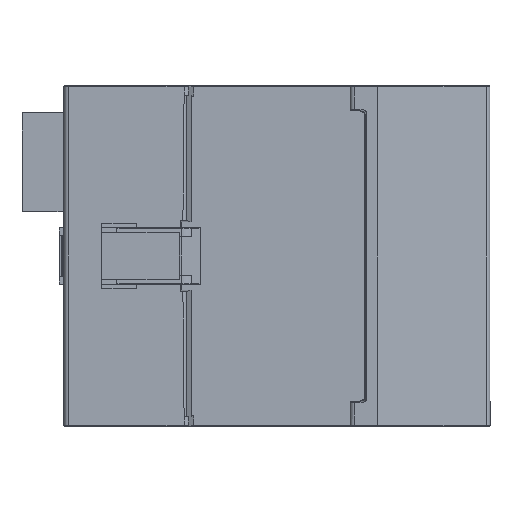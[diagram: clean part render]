
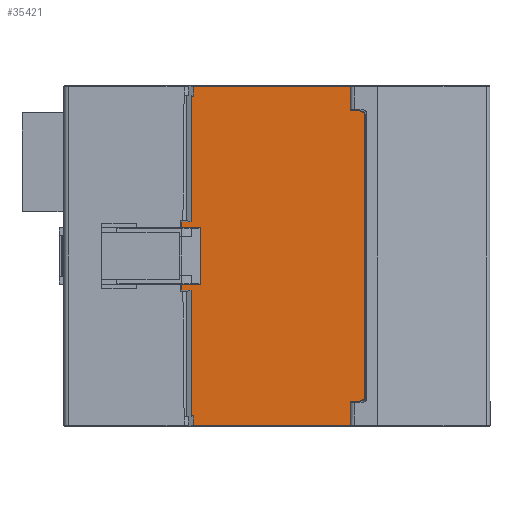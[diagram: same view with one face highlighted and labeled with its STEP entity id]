
A CAD part, front view. The second image highlights one B-rep face of the part: STEP entity #35421.
In plain terms, the highlighted planar face has unit normal (0, -1, 0).
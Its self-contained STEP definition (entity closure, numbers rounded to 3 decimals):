
#1192=ELLIPSE('',#37592,0.801,0.8);
#1193=ELLIPSE('',#37593,0.801,0.8);
#2280=FACE_OUTER_BOUND('',#4178,.T.);
#4178=EDGE_LOOP('',(#23487,#23488,#23489,#23490,#23491,#23492,#23493,#23494,
#23495,#23496,#23497,#23498,#23499,#23500,#23501,#23502,#23503,#23504));
#6653=LINE('',#52501,#10490);
#6654=LINE('',#52503,#10491);
#6655=LINE('',#52505,#10492);
#6656=LINE('',#52507,#10493);
#6657=LINE('',#52511,#10494);
#6658=LINE('',#52515,#10495);
#6659=LINE('',#52517,#10496);
#6660=LINE('',#52519,#10497);
#6661=LINE('',#52521,#10498);
#6662=LINE('',#52523,#10499);
#6663=LINE('',#52525,#10500);
#6664=LINE('',#52527,#10501);
#6665=LINE('',#52529,#10502);
#6666=LINE('',#52531,#10503);
#6667=LINE('',#52533,#10504);
#6668=LINE('',#52534,#10505);
#10490=VECTOR('',#41881,2.1);
#10491=VECTOR('',#41882,35.239);
#10492=VECTOR('',#41883,5.273);
#10493=VECTOR('',#41884,0.132);
#10494=VECTOR('',#41887,59.257);
#10495=VECTOR('',#41890,0.132);
#10496=VECTOR('',#41891,5.273);
#10497=VECTOR('',#41892,35.239);
#10498=VECTOR('',#41893,2.1);
#10499=VECTOR('',#41894,0.425);
#10500=VECTOR('',#41895,26.4);
#10501=VECTOR('',#41896,2.);
#10502=VECTOR('',#41897,10.);
#10503=VECTOR('',#41898,2.);
#10504=VECTOR('',#41899,26.4);
#10505=VECTOR('',#41900,0.425);
#14374=VERTEX_POINT('',#52499);
#14375=VERTEX_POINT('',#52500);
#14376=VERTEX_POINT('',#52502);
#14377=VERTEX_POINT('',#52504);
#14378=VERTEX_POINT('',#52506);
#14379=VERTEX_POINT('',#52508);
#14380=VERTEX_POINT('',#52510);
#14381=VERTEX_POINT('',#52512);
#14382=VERTEX_POINT('',#52514);
#14383=VERTEX_POINT('',#52516);
#14384=VERTEX_POINT('',#52518);
#14385=VERTEX_POINT('',#52520);
#14386=VERTEX_POINT('',#52522);
#14387=VERTEX_POINT('',#52524);
#14388=VERTEX_POINT('',#52526);
#14389=VERTEX_POINT('',#52528);
#14390=VERTEX_POINT('',#52530);
#14391=VERTEX_POINT('',#52532);
#17905=EDGE_CURVE('',#14374,#14375,#6653,.T.);
#17906=EDGE_CURVE('',#14376,#14374,#6654,.T.);
#17907=EDGE_CURVE('',#14376,#14377,#6655,.T.);
#17908=EDGE_CURVE('',#14378,#14377,#6656,.T.);
#17909=EDGE_CURVE('',#14379,#14378,#1192,.T.);
#17910=EDGE_CURVE('',#14380,#14379,#6657,.T.);
#17911=EDGE_CURVE('',#14381,#14380,#1193,.T.);
#17912=EDGE_CURVE('',#14382,#14381,#6658,.T.);
#17913=EDGE_CURVE('',#14382,#14383,#6659,.T.);
#17914=EDGE_CURVE('',#14384,#14383,#6660,.T.);
#17915=EDGE_CURVE('',#14385,#14384,#6661,.T.);
#17916=EDGE_CURVE('',#14386,#14385,#6662,.T.);
#17917=EDGE_CURVE('',#14387,#14386,#6663,.T.);
#17918=EDGE_CURVE('',#14388,#14387,#6664,.T.);
#17919=EDGE_CURVE('',#14388,#14389,#6665,.T.);
#17920=EDGE_CURVE('',#14390,#14389,#6666,.T.);
#17921=EDGE_CURVE('',#14390,#14391,#6667,.T.);
#17922=EDGE_CURVE('',#14391,#14375,#6668,.T.);
#23487=ORIENTED_EDGE('',*,*,#17905,.F.);
#23488=ORIENTED_EDGE('',*,*,#17906,.F.);
#23489=ORIENTED_EDGE('',*,*,#17907,.T.);
#23490=ORIENTED_EDGE('',*,*,#17908,.F.);
#23491=ORIENTED_EDGE('',*,*,#17909,.F.);
#23492=ORIENTED_EDGE('',*,*,#17910,.F.);
#23493=ORIENTED_EDGE('',*,*,#17911,.F.);
#23494=ORIENTED_EDGE('',*,*,#17912,.F.);
#23495=ORIENTED_EDGE('',*,*,#17913,.T.);
#23496=ORIENTED_EDGE('',*,*,#17914,.F.);
#23497=ORIENTED_EDGE('',*,*,#17915,.F.);
#23498=ORIENTED_EDGE('',*,*,#17916,.F.);
#23499=ORIENTED_EDGE('',*,*,#17917,.F.);
#23500=ORIENTED_EDGE('',*,*,#17918,.F.);
#23501=ORIENTED_EDGE('',*,*,#17919,.T.);
#23502=ORIENTED_EDGE('',*,*,#17920,.F.);
#23503=ORIENTED_EDGE('',*,*,#17921,.T.);
#23504=ORIENTED_EDGE('',*,*,#17922,.T.);
#32361=PLANE('',#37591);
#35421=ADVANCED_FACE('',(#2280),#32361,.F.);
#37591=AXIS2_PLACEMENT_3D('',#52498,#41879,#41880);
#37592=AXIS2_PLACEMENT_3D('',#52509,#41885,#41886);
#37593=AXIS2_PLACEMENT_3D('',#52513,#41888,#41889);
#41879=DIRECTION('center_axis',(0.,1.,0.));
#41880=DIRECTION('ref_axis',(0.,0.,
1.));
#41881=DIRECTION('',(0.,0.,1.));
#41882=DIRECTION('',(-1.,0.,0.));
#41883=DIRECTION('',(-0.017,0.,1.));
#41884=DIRECTION('',(-1.,0.,0.));
#41885=DIRECTION('center_axis',(0.,1.,0.));
#41886=DIRECTION('ref_axis',(0.707,0.,-0.707));
#41887=DIRECTION('',(0.,0.,-1.));
#41888=DIRECTION('center_axis',(0.,1.,0.));
#41889=DIRECTION('ref_axis',(0.707,0.,0.707));
#41890=DIRECTION('',(1.,0.,0.));
#41891=DIRECTION('',(0.017,0.,1.));
#41892=DIRECTION('',(1.,0.,0.));
#41893=DIRECTION('',(0.,0.,1.));
#41894=DIRECTION('',(1.,0.,0.));
#41895=DIRECTION('',(0.,0.,1.));
#41896=DIRECTION('',(1.,0.,0.));
#41897=DIRECTION('',(0.,0.,-1.));
#41898=DIRECTION('',(-1.,0.,0.));
#41899=DIRECTION('',(0.,0.,-1.));
#41900=DIRECTION('',(1.,0.,0.));
#52498=CARTESIAN_POINT('Origin',(0.,-1.,
0.));
#52499=CARTESIAN_POINT('',(-17.575,-1.,-35.7));
#52500=CARTESIAN_POINT('',(-17.575,-1.,-33.6));
#52501=CARTESIAN_POINT('',(-17.575,-1.,-32.8));
#52502=CARTESIAN_POINT('',(17.664,-1.,-35.7));
#52503=CARTESIAN_POINT('',(8.501,-1.,-35.7));
#52504=CARTESIAN_POINT('',(17.572,-1.,-30.428));
#52505=CARTESIAN_POINT('',(17.576,-1.,-30.704));
#52506=CARTESIAN_POINT('',(17.703,-1.,-30.428));
#52507=CARTESIAN_POINT('',(0.223,-1.,-30.428));
#52508=CARTESIAN_POINT('',(18.503,-1.,-29.628));
#52509=CARTESIAN_POINT('Origin',(17.702,-1.,-29.627));
#52510=CARTESIAN_POINT('',(18.503,-1.,29.628));
#52511=CARTESIAN_POINT('',(18.503,-1.,-17.65));
#52512=CARTESIAN_POINT('',(17.703,-1.,30.428));
#52513=CARTESIAN_POINT('Origin',(17.702,-1.,29.627));
#52514=CARTESIAN_POINT('',(17.572,-1.,30.428));
#52515=CARTESIAN_POINT('',(0.223,-1.,30.428));
#52516=CARTESIAN_POINT('',(17.664,-1.,35.7));
#52517=CARTESIAN_POINT('',(17.351,-1.,17.804));
#52518=CARTESIAN_POINT('',(-17.575,-1.,35.7));
#52519=CARTESIAN_POINT('',(-8.449,-1.,35.7));
#52520=CARTESIAN_POINT('',(-17.575,-1.,33.6));
#52521=CARTESIAN_POINT('',(-17.575,-1.,35.6));
#52522=CARTESIAN_POINT('',(-18.,-1.,33.6));
#52523=CARTESIAN_POINT('',(-26.588,-1.,33.6));
#52524=CARTESIAN_POINT('',(-18.,-1.,7.2));
#52525=CARTESIAN_POINT('',(-18.,-1.,-8.85));
#52526=CARTESIAN_POINT('',(-20.1,-1.,7.2));
#52527=CARTESIAN_POINT('',(-22.371,-1.,7.2));
#52528=CARTESIAN_POINT('',(-20.1,-1.,-7.2));
#52529=CARTESIAN_POINT('',(-20.1,-1.,-17.65));
#52530=CARTESIAN_POINT('',(-18.,-1.,-7.2));
#52531=CARTESIAN_POINT('',(-22.371,-1.,-7.2));
#52532=CARTESIAN_POINT('',(-18.,-1.,-33.6));
#52533=CARTESIAN_POINT('',(-18.,-1.,0.025));
#52534=CARTESIAN_POINT('',(-26.588,-1.,-33.6));
